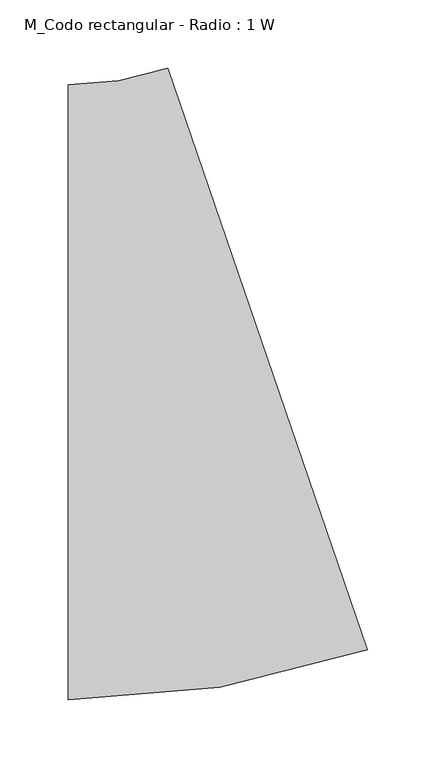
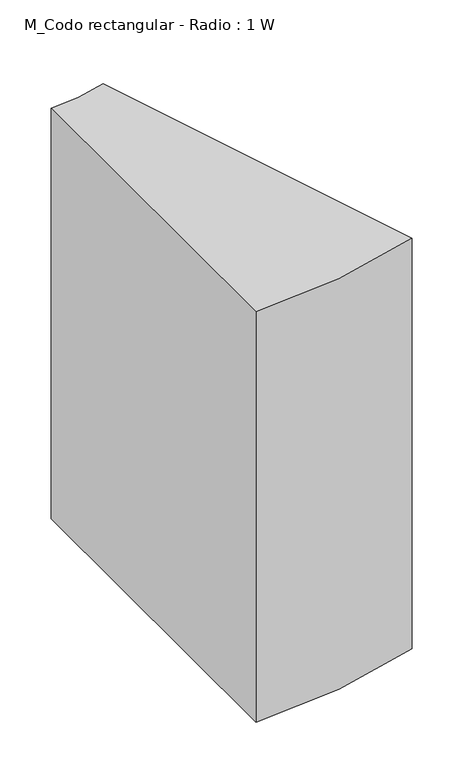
"""IFC4 building model written with IfcOpenShell, lengths in millimetres: duct fitting geometry, M_Codo rectangular - Radio : 1 W."""

import ifcopenshell
import ifcopenshell.guid

model = None  # the IFC model being written
_history = None  # IfcOwnerHistory: only IFC2X3 demands one
_inside = {}  # id of a spatial element -> (the spatial element, [elements in it])
_under = {}  # id of a project, library or spatial element -> (it, [spatial elements below it])
_declared = {}  # id of a project -> (the project, [libraries it declares])
_typed = {}  # id of a type object -> (the type object, [elements of that type])
_made_of = {}  # id of a material, layer set ... -> (it, [elements and type objects made of it])


def new_model(schema):
    """Start an empty IFC model of exactly this schema.

    Asked for "IFC4X3", IfcOpenShell would pick the latest addendum, in which some entities
    have other attributes; the version numbers below select the first issue.
    IFC2X3 requires an IfcOwnerHistory on every rooted entity: one is made here for all.
    """
    global model, _history
    if schema == "IFC4X3":
        model = ifcopenshell.file(schema_version=(4, 3, 0, 0))
    else:
        model = ifcopenshell.file(schema=schema)
    _inside.clear()
    _under.clear()
    _declared.clear()
    _typed.clear()
    _made_of.clear()
    _history = None
    if model.schema == "IFC2X3":
        org = make("IfcOrganization", Name="unknown")
        user = make(
            "IfcPersonAndOrganization",
            ThePerson=make("IfcPerson", FamilyName="unknown"),
            TheOrganization=org,
        )
        app = make(
            "IfcApplication",
            ApplicationDeveloper=org,
            Version="unknown",
            ApplicationFullName="unknown",
            ApplicationIdentifier="unknown",
        )
        _history = make(
            "IfcOwnerHistory",
            OwningUser=user,
            OwningApplication=app,
            ChangeAction="ADDED",
            CreationDate=0,
        )
    return model


def make(cls, **values):
    """One entity of the class cls with the attributes given. An attribute that is None is left unset."""
    return model.create_entity(
        cls, **{name: value for name, value in values.items() if value is not None}
    )


def rooted(cls, **values):
    """An entity with a GlobalId (a new one), such as an element, a storey or a relation."""
    return make(cls, GlobalId=ifcopenshell.guid.new(), OwnerHistory=_history, **values)


def si_unit(unit_type, name, prefix=None):
    """IfcSIUnit, for example si_unit("LENGTHUNIT", "METRE", prefix="MILLI")."""
    return make("IfcSIUnit", UnitType=unit_type, Prefix=prefix, Name=name)


def assignment(units):
    """IfcUnitAssignment: the units of a project."""
    return None if units is None else make("IfcUnitAssignment", Units=units)


def point(xyz):
    """IfcCartesianPoint."""
    return None if xyz is None else make("IfcCartesianPoint", Coordinates=xyz)


def direction(xyz):
    """IfcDirection."""
    return None if xyz is None else make("IfcDirection", DirectionRatios=xyz)


def frame(location, z_axis=None, x_axis=None):
    """IfcAxis2Placement3D, a coordinate frame: its origin and axes. An axis left out is left unset."""
    return make(
        "IfcAxis2Placement3D",
        Location=point(location),
        Axis=direction(z_axis),
        RefDirection=direction(x_axis),
    )


def frame_2d(location, x_axis=None):
    """IfcAxis2Placement2D, a coordinate frame in the plane: its origin and x axis."""
    return make(
        "IfcAxis2Placement2D", Location=point(location), RefDirection=direction(x_axis)
    )


def origin():
    """The frame at (0, 0, 0) with its axes left unset."""
    return frame((0.0, 0.0, 0.0))


def place(relative_to, where):
    """IfcLocalPlacement: puts the frame where relative to a parent placement (None: the world)."""
    return make(
        "IfcLocalPlacement", PlacementRelTo=relative_to, RelativePlacement=where
    )


def context(
    kind, dimensions, precision=None, world=None, true_north=None, identifier=None
):
    """IfcGeometricRepresentationContext, for example the 3D "Model" context."""
    return make(
        "IfcGeometricRepresentationContext",
        ContextIdentifier=identifier,
        ContextType=kind,
        CoordinateSpaceDimension=dimensions,
        Precision=precision,
        WorldCoordinateSystem=world,
        TrueNorth=true_north,
    )


def project(units=None, contexts=None):
    """IfcProject with its units and contexts."""
    return rooted(
        "IfcProject",
        Name="project",
        RepresentationContexts=contexts,
        UnitsInContext=assignment(units),
    )


def spatial(cls, under=None, at=None, **own):
    """A site, building, storey or space (cls), placed at a placement, below another one or the project."""
    s = rooted(cls, ObjectPlacement=at, **own)
    if under is not None:
        _under.setdefault(under.id(), (under, []))[1].append(s)
    return s


def polyline(points):
    """IfcPolyline through the points."""
    return make("IfcPolyline", Points=[point(p) for p in points])


def circle_curve(where, radius):
    """IfcCircle in the frame where."""
    return make("IfcCircle", Position=where, Radius=radius)


def trimmed(basis, trim1, trim2, sense, master):
    """IfcTrimmedCurve: the piece of a basis curve between two trims."""
    return make(
        "IfcTrimmedCurve",
        BasisCurve=basis,
        Trim1=trim1,
        Trim2=trim2,
        SenseAgreement=sense,
        MasterRepresentation=master,
    )


def segment(curve, same_sense, transition):
    """IfcCompositeCurveSegment."""
    return make(
        "IfcCompositeCurveSegment",
        Transition=transition,
        SameSense=same_sense,
        ParentCurve=curve,
    )


def composite_curve(segments, self_intersect=None):
    """IfcCompositeCurve: segments joined end to end."""
    return make("IfcCompositeCurve", Segments=segments, SelfIntersect=self_intersect)


def outline(outer, holes=None, kind="AREA"):
    """IfcArbitraryClosedProfileDef: a profile drawn as a closed curve; with holes, ...WithVoids."""
    if holes is None:
        return make("IfcArbitraryClosedProfileDef", ProfileType=kind, OuterCurve=outer)
    return make(
        "IfcArbitraryProfileDefWithVoids",
        ProfileType=kind,
        OuterCurve=outer,
        InnerCurves=holes,
    )


def extrude(swept, where, along, depth):
    """IfcExtrudedAreaSolid: the profile swept, set in the frame where, extruded along a direction by depth."""
    return make(
        "IfcExtrudedAreaSolid",
        SweptArea=swept,
        Position=where,
        ExtrudedDirection=direction(along),
        Depth=depth,
    )


def shape(context_of_items, identifier, shape_type, items):
    """IfcShapeRepresentation: the items that make up one representation, for example the "Body"."""
    return make(
        "IfcShapeRepresentation",
        ContextOfItems=context_of_items,
        RepresentationIdentifier=identifier,
        RepresentationType=shape_type,
        Items=items,
    )


def source(mapping_origin, context_of_items, identifier, shape_type, items):
    """IfcRepresentationMap: a shape defined once, which mapped items show again and again."""
    return make(
        "IfcRepresentationMap",
        MappingOrigin=mapping_origin,
        MappedRepresentation=shape(context_of_items, identifier, shape_type, items),
    )


def transform(
    local_origin,
    x_axis=None,
    y_axis=None,
    z_axis=None,
    scale=None,
    scale2=None,
    scale3=None,
    uniform=True,
):
    """IfcCartesianTransformationOperator3D, or its non-uniform kind. x_axis, y_axis, z_axis: its Axis1, 2, 3."""
    if uniform:
        return make(
            "IfcCartesianTransformationOperator3D",
            Axis1=direction(x_axis),
            Axis2=direction(y_axis),
            LocalOrigin=point(local_origin),
            Scale=scale,
            Axis3=direction(z_axis),
        )
    return make(
        "IfcCartesianTransformationOperator3DnonUniform",
        Axis1=direction(x_axis),
        Axis2=direction(y_axis),
        LocalOrigin=point(local_origin),
        Scale=scale,
        Axis3=direction(z_axis),
        Scale2=scale2,
        Scale3=scale3,
    )


def mapped(mapping_source, mapping_target):
    """IfcMappedItem: shows the shape of a source again, moved by a transform."""
    return make(
        "IfcMappedItem", MappingSource=mapping_source, MappingTarget=mapping_target
    )


def made_of(thing, what):
    """Note that an element or type object is made of a material, layer set ...; save() writes the relation."""
    if what is not None:
        _made_of.setdefault(what.id(), (what, []))[1].append(thing)
    return thing


def element(
    cls,
    number,
    at=None,
    inside=None,
    cuts=None,
    type_object=None,
    material=None,
    context=None,
    identifier="Body",
    shape_type=None,
    held_by="IfcProductDefinitionShape",
    body=None,
    shapes=None,
    **own,
):
    """One element of the class cls, such as IfcWall. Its Tag is "e" and its number.

    at: its placement. inside: the storey or other place that contains it. cuts: it is an
    opening in that element (IfcRelVoidsElement). A single representation is given by context,
    identifier, shape_type and body (its items); several are given by shapes. held_by: the class
    of the entity that holds the representations. save() writes the other relations.
    """
    e = rooted(cls, Tag="e%d" % number, ObjectPlacement=at, **own)
    if body is not None:
        shapes = [shape(context, identifier, shape_type, body)]
    if shapes is not None:
        e.Representation = make(held_by, Representations=shapes)
    if inside is not None:
        _inside.setdefault(inside.id(), (inside, []))[1].append(e)
    if cuts is not None:
        rooted(
            "IfcRelVoidsElement", RelatingBuildingElement=cuts, RelatedOpeningElement=e
        )
    if type_object is not None:
        _typed.setdefault(type_object.id(), (type_object, []))[1].append(e)
    return made_of(e, material)


def aggregate(whole, parts):
    """IfcRelAggregates: a whole, such as a stair, and the parts it consists of."""
    return rooted("IfcRelAggregates", RelatingObject=whole, RelatedObjects=parts)


def save(model, path):
    """Write the relations noted so far, then the file.

    IfcRelAggregates (storeys below a building ...), IfcRelContainedInSpatialStructure (elements
    in a storey), IfcRelDefinesByType, IfcRelAssociatesMaterial and IfcRelDeclares: one each for
    every whole, place, type object, material and project.
    """
    for whole, parts in _under.values():
        aggregate(whole, parts)
    for where, things in _inside.values():
        rooted(
            "IfcRelContainedInSpatialStructure",
            RelatedElements=things,
            RelatingStructure=where,
        )
    for kind, things in _typed.values():
        rooted("IfcRelDefinesByType", RelatedObjects=things, RelatingType=kind)
    for what, things in _made_of.values():
        rooted("IfcRelAssociatesMaterial", RelatedObjects=things, RelatingMaterial=what)
    for by, libraries in _declared.values():
        rooted("IfcRelDeclares", RelatingContext=by, RelatedDefinitions=libraries)
    model.write(path)


def m_codo_rectangular_radio_1_w_eaf11248(model_context):
    return source(origin(), model_context, "Body", "SweptSolid", [
        extrude(outline(composite_curve([segment(trimmed(circle_curve(frame_2d((-74.9894601, 450.0)), 675.0), [point((143.9003563, -188.5234908))], [point((-74.9894601, -225.0))], False, "CARTESIAN"), True, "CONTINUOUS"), segment(polyline([(-74.9894601, -225.0), (-74.9894601, 225.0)]), True, "CONTINUOUS"), segment(trimmed(circle_curve(frame_2d((-74.9894601, 450.0)), 225.0), [point((-74.9894601, 225.0))], [point((-2.0261879, 237.1588364))], True, "CARTESIAN"), True, "CONTINUOUS"), segment(polyline([(-2.0261879, 237.1588364), (143.9003563, -188.5234908)]), True, "CONTINUOUS")], self_intersect=False)), frame((0.0, 0.0, -275.0), z_axis=(0.0, 0.0, 1.0), x_axis=(1.0, 0.0, 0.0)), (0.0, 0.0, 1.0), 550.0),
    ])


if __name__ == "__main__":
    model = new_model("IFC4")
    model_context = context("Model", 3, world=origin())
    ifc_project = project(units=[si_unit("LENGTHUNIT", "METRE", prefix="MILLI")], contexts=[model_context])
    site = spatial("IfcSite", under=ifc_project)
    building = spatial("IfcBuilding", under=site)
    placement = place(None, origin())
    m_codo_rectangular_radio_1_w_shape = m_codo_rectangular_radio_1_w_eaf11248(model_context)
    element("IfcDuctFitting", 1, ObjectType="M_Codo rectangular - Radio : 1 W", at=placement, inside=building, context=model_context, shape_type="MappedRepresentation", body=[
        mapped(m_codo_rectangular_radio_1_w_shape, transform((0.0, 0.0, 0.0), x_axis=(1.0, 0.0, 0.0), y_axis=(0.0, 1.0, 0.0), z_axis=(0.0, 0.0, 1.0))),
    ])
    save(model, "model.ifc")
